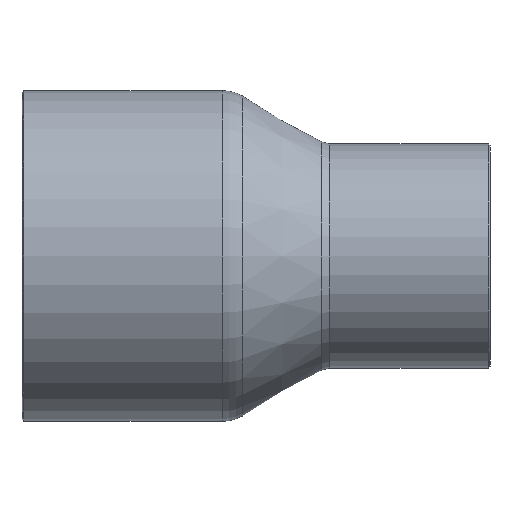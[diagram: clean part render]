
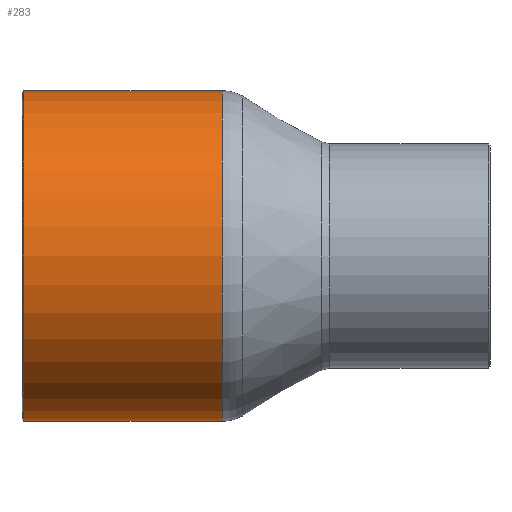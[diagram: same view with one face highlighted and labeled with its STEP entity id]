
A CAD part, front view. The second image highlights one B-rep face of the part: STEP entity #283.
In plain terms, the highlighted cylindrical face has radius 20.637 mm (diameter 41.275 mm), a full revolution.
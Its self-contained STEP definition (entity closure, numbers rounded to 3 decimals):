
#252=CARTESIAN_POINT('',(-42.,20.638,0.));
#253=VERTEX_POINT('',#252);
#254=CARTESIAN_POINT('',(-42.,0.0,0.0));
#255=DIRECTION('',(-1.0,0.0,0.0));
#256=DIRECTION('',(0.0,-1.0,0.0));
#257=AXIS2_PLACEMENT_3D('',#254,#255,#256);
#258=CIRCLE('',#257,20.638);
#259=EDGE_CURVE('',#253,#253,#258,.T.);
#264=CARTESIAN_POINT('',(-29.7,0.0,0.0));
#265=DIRECTION('',(1.0,0.0,0.0));
#266=DIRECTION('',(0.0,1.0,0.0));
#267=AXIS2_PLACEMENT_3D('',#264,#265,#266);
#268=CYLINDRICAL_SURFACE('',#267,20.638);
#269=CARTESIAN_POINT('',(-17.2,20.638,0.0));
#270=VERTEX_POINT('',#269);
#271=CARTESIAN_POINT('',(-17.2,0.0,0.0));
#272=DIRECTION('',(1.0,0.0,0.0));
#273=DIRECTION('',(0.0,1.0,0.0));
#274=AXIS2_PLACEMENT_3D('',#271,#272,#273);
#275=CIRCLE('',#274,20.638);
#276=EDGE_CURVE('',#270,#270,#275,.T.);
#277=ORIENTED_EDGE('',*,*,#276,.F.);
#278=EDGE_LOOP('',(#277));
#279=FACE_OUTER_BOUND('',#278,.T.);
#280=ORIENTED_EDGE('',*,*,#259,.F.);
#281=EDGE_LOOP('',(#280));
#282=FACE_BOUND('',#281,.T.);
#283=ADVANCED_FACE('',(#279,#282),#268,.T.);
